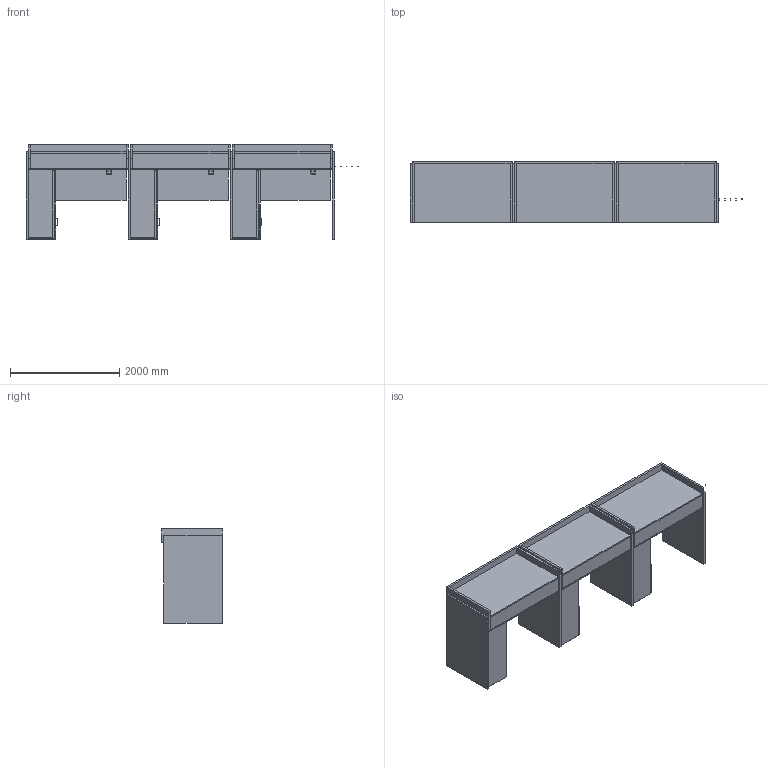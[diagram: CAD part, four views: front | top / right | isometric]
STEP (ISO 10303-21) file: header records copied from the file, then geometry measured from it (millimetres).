
FILE_DESCRIPTION(/* description */ ('','CAx-IF Rec.Pracs.---Representation and Presentation of Product Manufacturing Information (PMI)---4.0---2014-10-13'),/* implementation_level */ '2;1');
FILE_NAME(/* name */ 'WORKSTATION_FOUNDATION 4.stp',/* time_stamp */ '2024-12-08T10:30:37-05:00',/* author */ ('mbowman'),/* organization */ (''),/* preprocessor_version */ 'ST-DEVELOPER v19.2',/* originating_system */ 'Autodesk Inventor 2023',/* authorisation */ '');
FILE_SCHEMA (('AP242_MANAGED_MODEL_BASED_3D_ENGINEERING_MIM_LF { 1 0 10303 442 1 1 4 }'));
Products named in the file (21): FOUNDATION^OPEN OFFICE 3_LIFT TOP-SOLID ASSEMBLY; FOUNDATION^OPEN OFFICE 3_43.5x72 FRONT TRANSACTION-PARTS SOLID; FOUNDATION^OPEN OFFICE 3_42x55 GALLERY WALL-PARTS SOLID; FOUNDATION^CREDENZA 50_LT SHELF BF RT-SOLID ASSEMBLY; FOUNDATION^CREDENZA 50_LT SHELF BF RT-PARTS SOLID; SCHWINN 22334 PULL; FOUNDATION^OPEN OFFICE 3_12x29x72 WIRE WALL-PARTS SOLID; dl5nc_without_bracket_STEP; dl5nc_without_bracket_STEP_1; dl5nc_without_bracket_STEP_2; DL5NC_OP; STANDART_MOTORHUS1_DL5; FOUNDATION^WORKSURFACES_LIFT TOP-69x28.5; CLAMP ON PWR WITH DATA; ASHLEY 202-2PWR 2 DATA; DESK POWER UNIT BRKT; DESK POWER UNIT; DESK POWER UNIT BRKT BOLTS; FOUNDATION^OPEN OFFICE 3_12.94x68.94-TACKBOARD; FOUNDATION^WORKSURFACES_OPEN OFFICE 3-48in; H-MP-TUBE1
Assembly tree (48 placements, depth 3):
  FOUNDATION^OPEN OFFICE 3_LIFT TOP-SOLID ASSEMBLY
    FOUNDATION^OPEN OFFICE 3_43.5x72 FRONT TRANSACTION-PARTS SOLID  x3
    FOUNDATION^OPEN OFFICE 3_42x55 GALLERY WALL-PARTS SOLID  x4
    FOUNDATION^CREDENZA 50_LT SHELF BF RT-SOLID ASSEMBLY  x3
      FOUNDATION^CREDENZA 50_LT SHELF BF RT-PARTS SOLID
      SCHWINN 22334 PULL
    FOUNDATION^OPEN OFFICE 3_12x29x72 WIRE WALL-PARTS SOLID  x3
    dl5nc_without_bracket_STEP
      DL5NC_OP
      STANDART_MOTORHUS1_DL5
    dl5nc_without_bracket_STEP_1
      DL5NC_OP
      STANDART_MOTORHUS1_DL5
    dl5nc_without_bracket_STEP_2  x4
      DL5NC_OP
      STANDART_MOTORHUS1_DL5
    FOUNDATION^WORKSURFACES_LIFT TOP-69x28.5  x3
    CLAMP ON PWR WITH DATA  x3
      ASHLEY 202-2PWR 2 DATA
      DESK POWER UNIT BRKT BOLTS
      DESK POWER UNIT BRKT
      DESK POWER UNIT
    FOUNDATION^OPEN OFFICE 3_12.94x68.94-TACKBOARD  x3
    FOUNDATION^WORKSURFACES_OPEN OFFICE 3-48in  x3
    H-MP-TUBE1  x3
Bounding box: 6069.1 x 1104.9 x 1727.2 mm (x, y, z)
Volume: 1262959179.8 mm3; surface area: 96468733.2 mm2
Topology: 124 solids, 244 shells, 8262 faces, 21150 edges, 13448 vertices
Faces by surface type: plane 4731, cylinder 2862, torus 285, bspline 228, cone 78, sphere 78
Full cylindrical faces by diameter (mm): 3.683 x12, 4.6 x12, 4.762 x12, 4.978 x6, 5 x90, 5.3 x36, 5.5 x12, 6.35 x12, 8 x12, 8.202 x120, 8.636 x12, 9.525 x12, 17.272 x6, 25.4 x6, 28.575 x3, 38.1 x12
Entity records: 56815 total; most frequent: CARTESIAN_POINT 13841, DIRECTION 8597, ORIENTED_EDGE 8036, EDGE_CURVE 4018, AXIS2_PLACEMENT_3D 2968, LINE 2661, VECTOR 2661, VERTEX_POINT 2580
